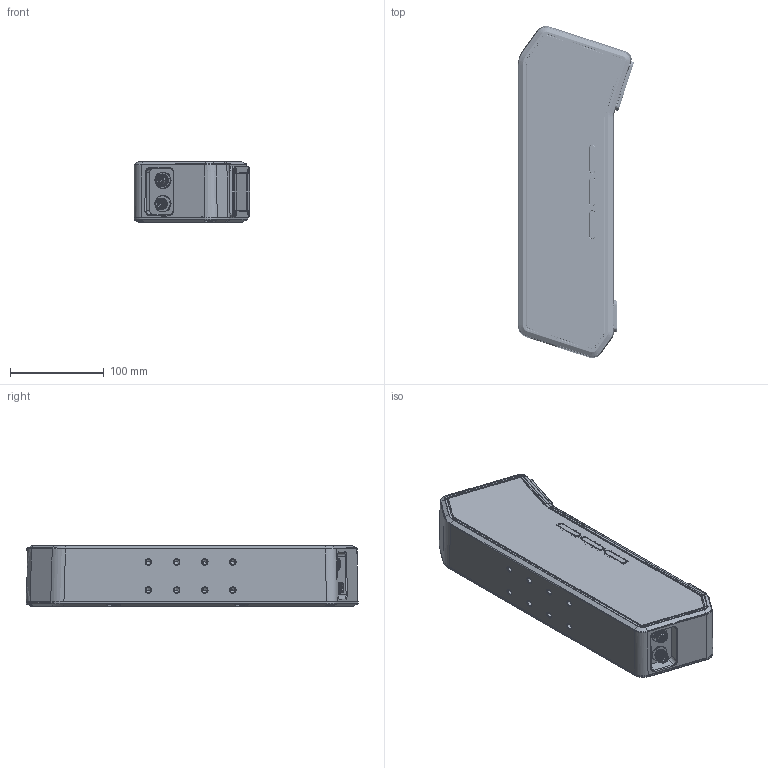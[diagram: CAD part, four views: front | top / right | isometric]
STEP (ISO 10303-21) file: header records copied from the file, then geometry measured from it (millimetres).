
FILE_DESCRIPTION((''),'2;1');
FILE_NAME('000-SMALL-LINE-LASER-ASM_ASM','2020-03-12T11:35:07',('fangguihua'),(''),'CREO PARAMETRIC BY PTC INC, 2017260','CREO PARAMETRIC BY PTC INC, 2017260','');
FILE_SCHEMA(('CONFIG_CONTROL_DESIGN'));
Products named in the file (22): DE-13-000186; DE-13-000240_ASM; DE-12-000423; _0001_ASM; DE-13-000187; DE-13-000241_ASM; _0002_ASM; DE-14-003374; _0003; 0001_ASM; DE-14-003375; _0004; 0002_ASM; 00-MD_ASM_ASM; _X2_56FE5757_X0__08_01_A_A; M12A-12PMMS-SH8BXX_2_1_01_A_ASM_ASM; _X2_56FE5757_X0__06_01_A_A; M12A-08PFFS-SH8BXX_1_1_A_ASM_A_ASM; 00-PCB-ASM_ASM; SC-PM3X7_5T10-L4-SUS304-BZN_1; SC-KM3X6NL-BNI-SCM435-GB819_A_1; 000-SMALL-LINE-LASER-ASM_ASM
Assembly tree (37 placements, depth 5):
  000-SMALL-LINE-LASER-ASM_ASM
    00-MD_ASM_ASM
      _0001_ASM
        DE-13-000240_ASM
          DE-13-000186
        DE-12-000423  x3
      _0002_ASM
        DE-13-000241_ASM
          DE-13-000187
      0001_ASM
        DE-14-003374
        _0003
      0002_ASM
        DE-14-003375
        _0004
    00-PCB-ASM_ASM
      M12A-12PMMS-SH8BXX_2_1_01_A_ASM_ASM
        _X2_56FE5757_X0__08_01_A_A
      M12A-08PFFS-SH8BXX_1_1_A_ASM_A_ASM
        _X2_56FE5757_X0__06_01_A_A
    SC-PM3X7_5T10-L4-SUS304-BZN_1  x8
    SC-KM3X6NL-BNI-SCM435-GB819_A_1  x8
Bounding box: 123.36 x 354.12 x 65 mm (x, y, z)
Volume: 2081700.6 mm3; surface area: 245635.6 mm2
Topology: 26 solids, 954 shells, 3513 faces, 11770 edges, 9239 vertices
Faces by surface type: plane 1262, cylinder 1116, cone 452, bspline 296, torus 201, extrusion 153, sphere 33
Entity records: 145719 total; most frequent: CARTESIAN_POINT 65358, DIRECTION 15206, ORIENTED_EDGE 14430, EDGE_CURVE 9833, VERTEX_POINT 8044, AXIS2_PLACEMENT_3D 5319, VECTOR 4568, LINE 4457
